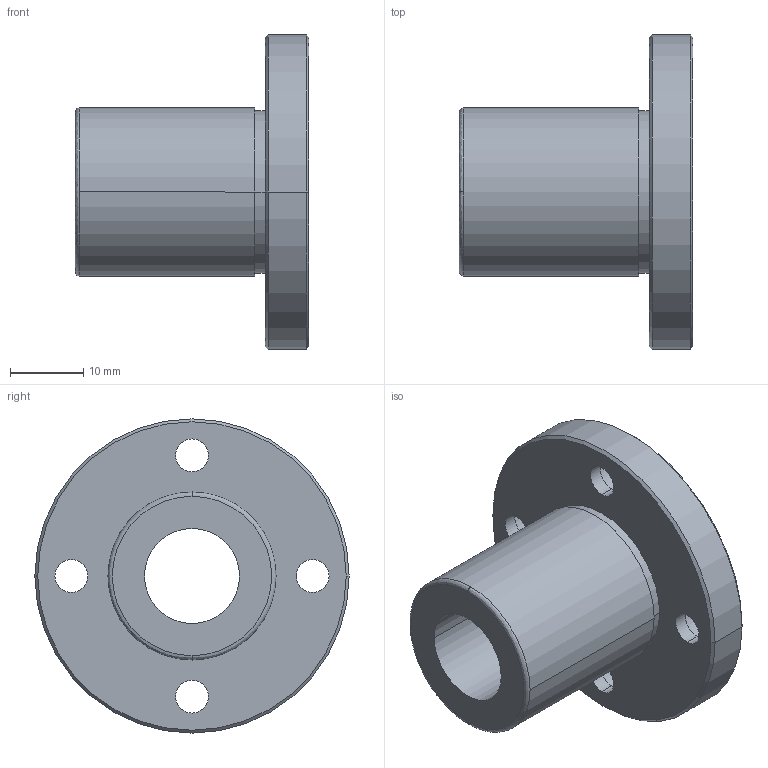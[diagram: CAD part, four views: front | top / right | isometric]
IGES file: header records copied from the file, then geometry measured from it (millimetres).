
Start section: 3D InterOp IGES (Version 21 0 1), Spatial Corp. Copyright (c) 1999-2007.
Global section: file name: NFED-13VUU.igs; native system: Spatial Corp.; preprocessor: 3D InterOp GENERIC/IGES 3.0; author: Noname; organization: Noname; date: 20220308.100844; units: millimetre
Bounding box: 32 x 43 x 43 mm (x, y, z)
Surface area: 6965.9 mm2 (no closed solid volume)
Topology: 0 solids, 0 shells, 38 faces, 174 edges, 174 vertices
Faces by surface type: revolution 30, extrusion 8
